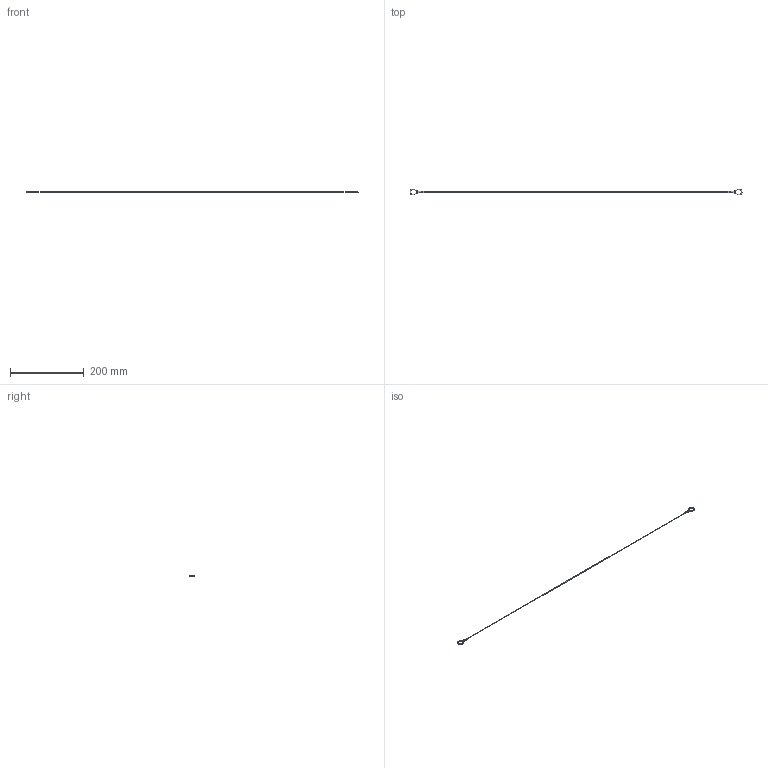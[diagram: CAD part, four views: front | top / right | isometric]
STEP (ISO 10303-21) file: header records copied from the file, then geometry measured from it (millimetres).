
FILE_DESCRIPTION (( 'STEP AP203' ), '1' );
FILE_NAME ('EB-935-19.STEP', '2013-08-12T06:38:31', ( 'SDS' ), ( 'SDS' ), 'SwSTEP 2.0', 'SolidWorks 2002296', '' );
FILE_SCHEMA (( 'CONFIG_CONTROL_DESIGN' ));
Length unit declared in the file: millimetre
Products named in the file (1): EB-935-19
Bounding box: 899.98 x 15.98 x 2.5 mm (x, y, z)
Volume: 1821.5 mm3; surface area: 4732 mm2
Topology: 1 solids, 1 shells, 32 faces, 70 edges, 38 vertices
Faces by surface type: bspline 16, plane 14, cylinder 2
Entity records: 1407 total; most frequent: CARTESIAN_POINT 701, ORIENTED_EDGE 140, DIRECTION 120, EDGE_CURVE 70, AXIS2_PLACEMENT_3D 45, VERTEX_POINT 38, EDGE_LOOP 34, ADVANCED_FACE 32
